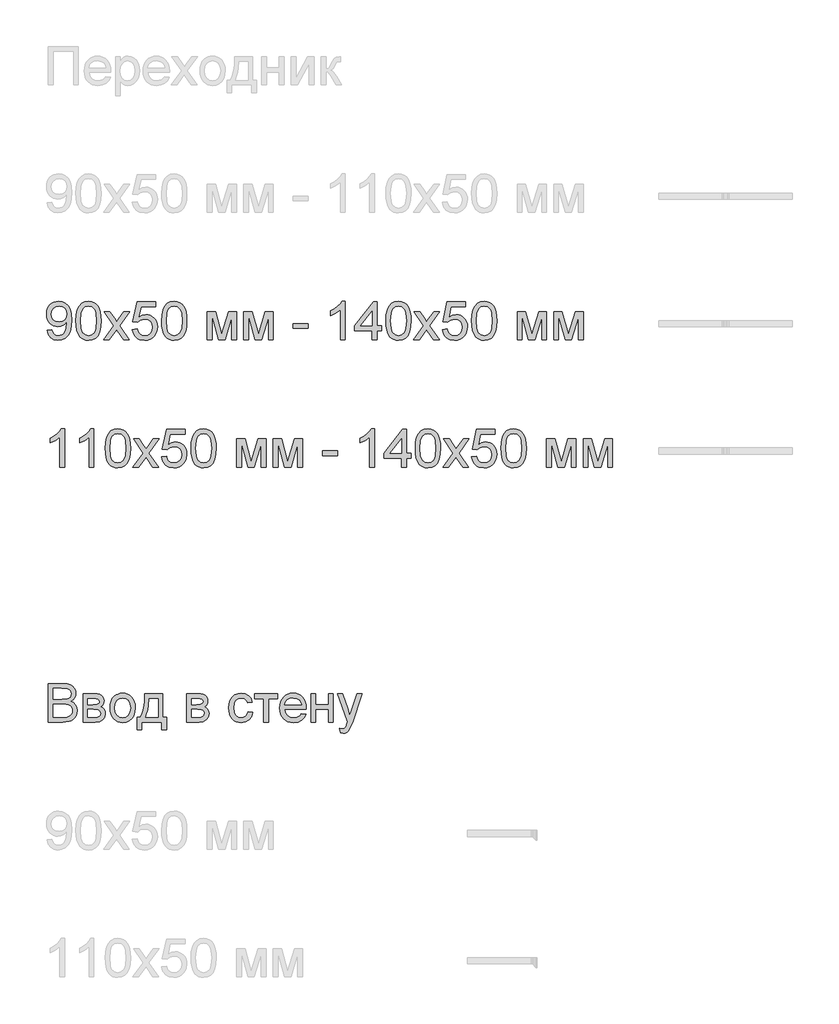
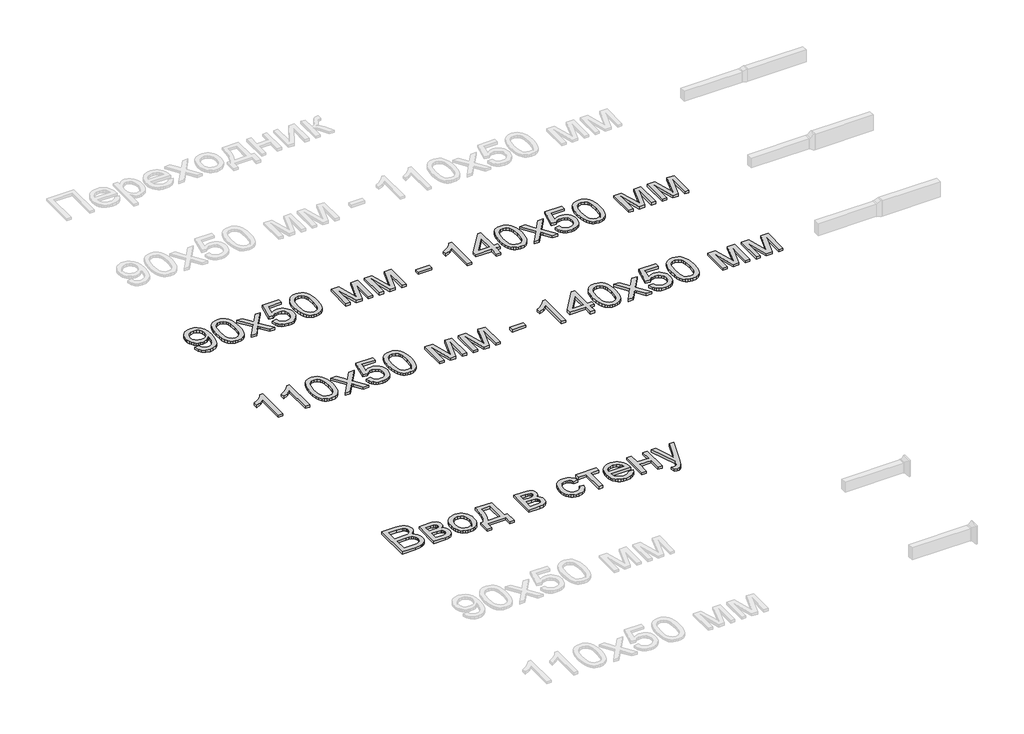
# One storey, part 93 of 168: 3 proxies.
"""IFC4 building model written with IfcOpenShell, lengths in millimetres."""

import ifcopenshell
import ifcopenshell.guid

model = None  # the IFC model being written
_history = None  # IfcOwnerHistory: only IFC2X3 demands one
_inside = {}  # id of a spatial element -> (the spatial element, [elements in it])
_under = {}  # id of a project, library or spatial element -> (it, [spatial elements below it])
_declared = {}  # id of a project -> (the project, [libraries it declares])
_typed = {}  # id of a type object -> (the type object, [elements of that type])
_made_of = {}  # id of a material, layer set ... -> (it, [elements and type objects made of it])


def new_model(schema):
    """Start an empty IFC model of exactly this schema.

    Asked for "IFC4X3", IfcOpenShell would pick the latest addendum, in which some entities
    have other attributes; the version numbers below select the first issue.
    IFC2X3 requires an IfcOwnerHistory on every rooted entity: one is made here for all.
    """
    global model, _history
    if schema == "IFC4X3":
        model = ifcopenshell.file(schema_version=(4, 3, 0, 0))
    else:
        model = ifcopenshell.file(schema=schema)
    _inside.clear()
    _under.clear()
    _declared.clear()
    _typed.clear()
    _made_of.clear()
    _history = None
    if model.schema == "IFC2X3":
        org = make("IfcOrganization", Name="unknown")
        user = make(
            "IfcPersonAndOrganization",
            ThePerson=make("IfcPerson", FamilyName="unknown"),
            TheOrganization=org,
        )
        app = make(
            "IfcApplication",
            ApplicationDeveloper=org,
            Version="unknown",
            ApplicationFullName="unknown",
            ApplicationIdentifier="unknown",
        )
        _history = make(
            "IfcOwnerHistory",
            OwningUser=user,
            OwningApplication=app,
            ChangeAction="ADDED",
            CreationDate=0,
        )
    return model


def make(cls, **values):
    """One entity of the class cls with the attributes given. An attribute that is None is left unset."""
    return model.create_entity(
        cls, **{name: value for name, value in values.items() if value is not None}
    )


def rooted(cls, **values):
    """An entity with a GlobalId (a new one), such as an element, a storey or a relation."""
    return make(cls, GlobalId=ifcopenshell.guid.new(), OwnerHistory=_history, **values)


def si_unit(unit_type, name, prefix=None):
    """IfcSIUnit, for example si_unit("LENGTHUNIT", "METRE", prefix="MILLI")."""
    return make("IfcSIUnit", UnitType=unit_type, Prefix=prefix, Name=name)


def assignment(units):
    """IfcUnitAssignment: the units of a project."""
    return None if units is None else make("IfcUnitAssignment", Units=units)


def point(xyz):
    """IfcCartesianPoint."""
    return None if xyz is None else make("IfcCartesianPoint", Coordinates=xyz)


def direction(xyz):
    """IfcDirection."""
    return None if xyz is None else make("IfcDirection", DirectionRatios=xyz)


def frame(location, z_axis=None, x_axis=None):
    """IfcAxis2Placement3D, a coordinate frame: its origin and axes. An axis left out is left unset."""
    return make(
        "IfcAxis2Placement3D",
        Location=point(location),
        Axis=direction(z_axis),
        RefDirection=direction(x_axis),
    )


def origin():
    """The frame at (0, 0, 0) with its axes left unset."""
    return frame((0.0, 0.0, 0.0))


def origin_with_axes():
    """The frame at (0, 0, 0) with the z axis (0, 0, 1) and the x axis (1, 0, 0) written out."""
    return frame((0.0, 0.0, 0.0), z_axis=(0.0, 0.0, 1.0), x_axis=(1.0, 0.0, 0.0))


def place(relative_to, where):
    """IfcLocalPlacement: puts the frame where relative to a parent placement (None: the world)."""
    return make(
        "IfcLocalPlacement", PlacementRelTo=relative_to, RelativePlacement=where
    )


def context(
    kind, dimensions, precision=None, world=None, true_north=None, identifier=None
):
    """IfcGeometricRepresentationContext, for example the 3D "Model" context."""
    return make(
        "IfcGeometricRepresentationContext",
        ContextIdentifier=identifier,
        ContextType=kind,
        CoordinateSpaceDimension=dimensions,
        Precision=precision,
        WorldCoordinateSystem=world,
        TrueNorth=true_north,
    )


def project(units=None, contexts=None):
    """IfcProject with its units and contexts."""
    return rooted(
        "IfcProject",
        Name="project",
        RepresentationContexts=contexts,
        UnitsInContext=assignment(units),
    )


def spatial(cls, under=None, at=None, **own):
    """A site, building, storey or space (cls), placed at a placement, below another one or the project."""
    s = rooted(cls, ObjectPlacement=at, **own)
    if under is not None:
        _under.setdefault(under.id(), (under, []))[1].append(s)
    return s


def polyline(points):
    """IfcPolyline through the points."""
    return make("IfcPolyline", Points=[point(p) for p in points])


def outline(outer, holes=None, kind="AREA"):
    """IfcArbitraryClosedProfileDef: a profile drawn as a closed curve; with holes, ...WithVoids."""
    if holes is None:
        return make("IfcArbitraryClosedProfileDef", ProfileType=kind, OuterCurve=outer)
    return make(
        "IfcArbitraryProfileDefWithVoids",
        ProfileType=kind,
        OuterCurve=outer,
        InnerCurves=holes,
    )


def extrude(swept, where, along, depth):
    """IfcExtrudedAreaSolid: the profile swept, set in the frame where, extruded along a direction by depth."""
    return make(
        "IfcExtrudedAreaSolid",
        SweptArea=swept,
        Position=where,
        ExtrudedDirection=direction(along),
        Depth=depth,
    )


def shape(context_of_items, identifier, shape_type, items):
    """IfcShapeRepresentation: the items that make up one representation, for example the "Body"."""
    return make(
        "IfcShapeRepresentation",
        ContextOfItems=context_of_items,
        RepresentationIdentifier=identifier,
        RepresentationType=shape_type,
        Items=items,
    )


def made_of(thing, what):
    """Note that an element or type object is made of a material, layer set ...; save() writes the relation."""
    if what is not None:
        _made_of.setdefault(what.id(), (what, []))[1].append(thing)
    return thing


def element(
    cls,
    number,
    at=None,
    inside=None,
    cuts=None,
    type_object=None,
    material=None,
    context=None,
    identifier="Body",
    shape_type=None,
    held_by="IfcProductDefinitionShape",
    body=None,
    shapes=None,
    **own,
):
    """One element of the class cls, such as IfcWall. Its Tag is "e" and its number.

    at: its placement. inside: the storey or other place that contains it. cuts: it is an
    opening in that element (IfcRelVoidsElement). A single representation is given by context,
    identifier, shape_type and body (its items); several are given by shapes. held_by: the class
    of the entity that holds the representations. save() writes the other relations.
    """
    e = rooted(cls, Tag="e%d" % number, ObjectPlacement=at, **own)
    if body is not None:
        shapes = [shape(context, identifier, shape_type, body)]
    if shapes is not None:
        e.Representation = make(held_by, Representations=shapes)
    if inside is not None:
        _inside.setdefault(inside.id(), (inside, []))[1].append(e)
    if cuts is not None:
        rooted(
            "IfcRelVoidsElement", RelatingBuildingElement=cuts, RelatedOpeningElement=e
        )
    if type_object is not None:
        _typed.setdefault(type_object.id(), (type_object, []))[1].append(e)
    return made_of(e, material)


def aggregate(whole, parts):
    """IfcRelAggregates: a whole, such as a stair, and the parts it consists of."""
    return rooted("IfcRelAggregates", RelatingObject=whole, RelatedObjects=parts)


def save(model, path):
    """Write the relations noted so far, then the file.

    IfcRelAggregates (storeys below a building ...), IfcRelContainedInSpatialStructure (elements
    in a storey), IfcRelDefinesByType, IfcRelAssociatesMaterial and IfcRelDeclares: one each for
    every whole, place, type object, material and project.
    """
    for whole, parts in _under.values():
        aggregate(whole, parts)
    for where, things in _inside.values():
        rooted(
            "IfcRelContainedInSpatialStructure",
            RelatedElements=things,
            RelatingStructure=where,
        )
    for kind, things in _typed.values():
        rooted("IfcRelDefinesByType", RelatedObjects=things, RelatingType=kind)
    for what, things in _made_of.values():
        rooted("IfcRelAssociatesMaterial", RelatedObjects=things, RelatingMaterial=what)
    for by, libraries in _declared.values():
        rooted("IfcRelDeclares", RelatingContext=by, RelatedDefinitions=libraries)
    model.write(path)


model = new_model("IFC4")

# Units and contexts
model_context = context("Model", 3, world=origin())
ifc_project = project(units=[si_unit("LENGTHUNIT", "METRE", prefix="MILLI")], contexts=[model_context])

# Site, building, storey
site = spatial("IfcSite", under=ifc_project)
building = spatial("IfcBuilding", under=site)
storey = spatial("IfcBuildingStorey", under=building, Name="Этаж 01", Elevation=0.0)

# Proxies
placement = place(None, origin())
element("IfcBuildingElementProxy", 1, Name="300 мм Arial 2", ObjectType="300 мм Arial 2", at=placement, inside=storey, context=model_context, shape_type="SweptSolid", body=[
    extrude(outline(polyline([(18069.3999525, -9073.063449), (18107.0710688, -9068.3545594), (18113.5090037, -9089.7377004), (18123.9936406, -9104.2966303), (18138.267462, -9112.6567487), (18156.0729505, -9115.4434548), (18172.0482262, -9113.6500301), (18186.5703679, -9108.2697559), (18198.6368974, -9099.8912435), (18207.2453361, -9089.1031039), (18219.5693829, -9056.3616064), (18225.0140364, -9012.6572253), (18224.7933072, -9005.2995854), (18211.7426935, -9021.2288758), (18194.6637718, -9033.8472283), (18174.7889471, -9042.0693909), (18153.3506238, -9044.8101117), (18135.455464, -9043.1362486), (18118.9996425, -9038.1146594), (18103.9831593, -9029.745344), (18090.4060144, -9018.0283025), (18079.1557231, -9003.5751386), (18071.1198008, -8986.9974562), (18066.2982474, -8968.2952553), (18064.6910629, -8947.4685358), (18066.3764223, -8925.9474391), (18071.4325005, -8906.6336343), (18079.8592975, -8889.5271216), (18091.6568132, -8874.6279008), (18105.9927147, -8862.5567728), (18122.0346689, -8853.9345385), (18139.782676, -8848.761198), (18159.2367357, -8847.0367511), (18187.3337231, -8850.9730885), (18212.9107188, -8862.7821005), (18234.3030568, -8881.8751761), (18249.8460711, -8907.6637039), (18259.3098354, -8943.3114693), (18262.4644236, -8991.9822572), (18259.3190325, -9043.5869041), (18249.8828593, -9083.4745094), (18234.2386775, -9113.447695), (18212.4692604, -9135.3090825), (18185.5127072, -9148.663199), (18154.307117, -9153.1145711), (18122.0990483, -9147.8630556), (18096.4024909, -9132.1085092), (18078.4314555, -9106.8442132), (18069.3999525, -9073.063449)]), holes=[polyline([(18224.7933072, -8946.585619), (18220.7282112, -8921.0546085), (18208.5329231, -8901.40971), (18189.6053944, -8888.8833281), (18165.3435768, -8884.7078674), (18140.1804484, -8889.2052248), (18120.020515, -8902.697297), (18106.7767632, -8923.344674), (18102.3621793, -8949.3079458), (18106.5376399, -8972.585679), (18119.0640218, -8991.0625522), (18138.7273145, -9003.1198846), (18164.3135072, -9007.1389954), (18188.3821868, -9003.1198846), (18207.7603709, -8991.0625522), (18220.5350732, -8971.9050973), (18224.7933072, -8946.585619)])]), origin_with_axes(), (0.0, 0.0, 1.0), 20.0),
    extrude(outline(polyline([(18295.4266503, -9000.1492375), (18298.1949623, -8951.9107109), (18306.4998984, -8913.4394512), (18320.258685, -8884.1468474), (18339.3885487, -8863.4442881), (18364.0274454, -8851.1386354), (18394.3133306, -8847.0367511), (18417.5266845, -8849.4647723), (18438.3120172, -8856.7488358), (18455.6944415, -8868.6038331), (18468.6990701, -8884.7446556), (18478.5215193, -8905.0333477), (18486.3574058, -8929.3319534), (18491.4893597, -8960.1880558), (18493.2000109, -9000.1492375), (18490.4592901, -9048.1118526), (18482.2371275, -9086.4911418), (18468.5611143, -9115.8113368), (18449.4588417, -9136.5966695), (18424.7647628, -9148.9850957), (18394.3133306, -9153.1145711), (18373.5647861, -9151.3211464), (18355.1706863, -9145.9408722), (18339.1310313, -9136.9737486), (18325.4458211, -9124.4197755), (18312.3124339, -9101.7260549), (18302.931443, -9073.4497251), (18297.3028485, -9039.5907859), (18295.4266503, -9000.1492375)]), holes=[polyline([(18333.0977666, -9000.0756611), (18337.5123506, -9059.3322535), (18343.0305805, -9079.6002522), (18350.7561024, -9093.6280525), (18370.4745773, -9109.9896042), (18394.3133306, -9115.4434548), (18418.1520839, -9109.9712101), (18437.8705589, -9093.5544761), (18445.5960808, -9079.5036831), (18451.1143107, -9059.240283), (18455.5288946, -9000.0756611), (18451.2614635, -8942.152641), (18445.9271745, -8921.9513209), (18438.45917, -8907.5901275), (18418.7774833, -8890.4284325), (18393.8718722, -8884.7078674), (18370.2906363, -8889.7478508), (18351.3447136, -8904.8678008), (18343.3616743, -8920.5027856), (18337.6595034, -8941.5824239), (18333.0977666, -9000.0756611)])]), origin_with_axes(), (0.0, 0.0, 1.0), 20.0),
    extrude(outline(polyline([(18512.0355691, -9148.4056816), (18592.5281496, -9037.1581662), (18516.7444586, -8927.0878733), (18562.0675204, -8927.0878733), (18598.6349907, -8980.0628806), (18615.7047153, -9005.0788562), (18630.4935715, -8984.6246173), (18672.1378134, -8927.0878733), (18717.4608752, -8927.0878733), (18637.8512114, -9037.1581662), (18714.5178192, -9148.4056816), (18669.1947574, -9148.4056816), (18623.0623552, -9081.5247348), (18614.6010693, -9069.3110526), (18557.3586309, -9148.4056816), (18512.0355691, -9148.4056816)])), origin_with_axes(), (0.0, 0.0, 1.0), 20.0),
    extrude(outline(polyline([(18738.0622669, -9068.3545594), (18775.7333832, -9063.6456699), (18782.6495647, -9086.2612155), (18794.7160942, -9102.4572204), (18811.8777893, -9112.1968962), (18834.0794677, -9115.4434548), (18861.0820061, -9110.9277033), (18881.3155158, -9097.3804488), (18893.9522624, -9076.3651899), (18898.1645112, -9049.4454249), (18894.2189768, -9024.0983554), (18882.3823736, -9004.7109743), (18862.5627311, -8992.4053215), (18834.6680789, -8988.3034373), (18816.3935407, -8989.9405121), (18801.5954875, -8994.8517368), (18780.4422728, -9011.847885), (18742.7711565, -9007.1389954), (18775.7333832, -8851.7456407), (18921.7089589, -8851.7456407), (18921.7089589, -8889.416757), (18806.1940124, -8889.416757), (18790.080781, -8972.4109351), (18816.991349, -8956.0769745), (18845.1895039, -8950.632321), (18863.5353192, -8952.3199796), (18880.3866138, -8957.3829556), (18895.7433878, -8965.8212488), (18909.6056413, -8977.6348594), (18921.0812603, -8992.1018189), (18929.278131, -9008.5001588), (18934.1962534, -9026.8298792), (18935.8356275, -9047.0909801), (18929.9311215, -9084.7620964), (18922.550489, -9101.5559095), (18912.2176034, -9116.9885592), (18896.5642245, -9132.7936894), (18878.2988835, -9144.0830681), (18857.4215803, -9150.8566954), (18833.9323149, -9153.1145711), (18796.9325832, -9147.3112326), (18781.2539124, -9140.0570595), (18767.4560383, -9129.9012172), (18755.9758208, -9117.3495434), (18747.2501197, -9102.9078758), (18738.0622669, -9068.3545594)])), origin_with_axes(), (0.0, 0.0, 1.0), 20.0),
    extrude(outline(polyline([(18968.7978543, -9000.1492375), (18971.5661663, -8951.9107109), (18979.8711023, -8913.4394512), (18993.629889, -8884.1468474), (19012.7597527, -8863.4442881), (19037.3986493, -8851.1386354), (19067.6845346, -8847.0367511), (19090.8978885, -8849.4647723), (19111.6832212, -8856.7488358), (19129.0656455, -8868.6038331), (19142.070274, -8884.7446556), (19151.8927233, -8905.0333477), (19159.7286098, -8929.3319534), (19164.8605636, -8960.1880558), (19166.5712149, -9000.1492375), (19163.830494, -9048.1118526), (19155.6083314, -9086.4911418), (19141.9323183, -9115.8113368), (19122.8300457, -9136.5966695), (19098.1359667, -9148.9850957), (19067.6845346, -9153.1145711), (19046.9359901, -9151.3211464), (19028.5418903, -9145.9408722), (19012.5022353, -9136.9737486), (18998.8170251, -9124.4197755), (18985.6836379, -9101.7260549), (18976.302647, -9073.4497251), (18970.6740525, -9039.5907859), (18968.7978543, -9000.1492375)]), holes=[polyline([(19006.4689706, -9000.0756611), (19010.8835545, -9059.3322535), (19016.4017845, -9079.6002522), (19024.1273064, -9093.6280525), (19043.8457813, -9109.9896042), (19067.6845346, -9115.4434548), (19091.5232879, -9109.9712101), (19111.2417628, -9093.5544761), (19118.9672847, -9079.5036831), (19124.4855147, -9059.240283), (19128.9000986, -9000.0756611), (19124.6326675, -8942.152641), (19119.2983785, -8921.9513209), (19111.830374, -8907.5901275), (19092.1486873, -8890.4284325), (19067.2430762, -8884.7078674), (19043.6618403, -8889.7478508), (19024.7159176, -8904.8678008), (19016.7328783, -8920.5027856), (19011.0307073, -8941.5824239), (19006.4689706, -9000.0756611)])]), origin_with_axes(), (0.0, 0.0, 1.0), 20.0),
    extrude(outline(polyline([(19326.6734592, -8927.0878733), (19391.4942668, -8927.0878733), (19441.4526417, -9104.2598421), (19495.3105658, -8927.0878733), (19557.4090466, -8927.0878733), (19557.4090466, -9148.4056816), (19519.7379303, -9148.4056816), (19519.7379303, -8970.2036431), (19465.5857006, -9148.4056816), (19416.1423604, -9148.4056816), (19364.3445755, -8961.6687808), (19364.3445755, -9148.4056816), (19326.6734592, -9148.4056816), (19326.6734592, -8927.0878733)])), origin_with_axes(), (0.0, 0.0, 1.0), 20.0),
    extrude(outline(polyline([(19613.915721, -8927.0878733), (19678.7365286, -8927.0878733), (19728.6949035, -9104.2598421), (19782.5528276, -8927.0878733), (19844.6513084, -8927.0878733), (19844.6513084, -9148.4056816), (19806.9801921, -9148.4056816), (19806.9801921, -8970.2036431), (19752.8279624, -9148.4056816), (19703.3846223, -9148.4056816), (19651.5868373, -8961.6687808), (19651.5868373, -9148.4056816), (19613.915721, -9148.4056816), (19613.915721, -8927.0878733)])), origin_with_axes(), (0.0, 0.0, 1.0), 20.0),
    extrude(outline(polyline([(20000.0446632, -9058.9367803), (20000.0446632, -9021.265664), (20117.7669016, -9021.265664), (20117.7669016, -9058.9367803), (20000.0446632, -9058.9367803)])), origin_with_axes(), (0.0, 0.0, 1.0), 20.0),
    extrude(outline(polyline([(20409.718053, -9148.4056816), (20372.0469367, -9148.4056816), (20372.0469367, -8913.5498158), (20336.3623832, -8938.9704617), (20296.7047041, -8957.9899609), (20296.7047041, -8922.3789837), (20326.2916135, -8906.2841464), (20351.9237916, -8887.1358886), (20372.1297101, -8866.7736202), (20385.4378413, -8847.0367511), (20409.718053, -8847.0367511), (20409.718053, -9148.4056816)])), origin_with_axes(), (0.0, 0.0, 1.0), 20.0),
    extrude(outline(polyline([(20621.6180822, -9148.4056816), (20621.6180822, -9077.7723385), (20485.0602856, -9077.7723385), (20485.0602856, -9040.1012222), (20631.0358613, -8851.7456407), (20659.2891985, -8851.7456407), (20659.2891985, -9040.1012222), (20696.9603148, -9040.1012222), (20696.9603148, -9077.7723385), (20659.2891985, -9077.7723385), (20659.2891985, -9148.4056816), (20621.6180822, -9148.4056816)]), holes=[polyline([(20621.6180822, -9040.1012222), (20621.6180822, -8923.7033589), (20531.413417, -9040.1012222), (20621.6180822, -9040.1012222)])]), origin_with_axes(), (0.0, 0.0, 1.0), 20.0),
    extrude(outline(polyline([(20729.9225416, -9000.1492375), (20732.6908536, -8951.9107109), (20740.9957897, -8913.4394512), (20754.7545763, -8884.1468474), (20773.88444, -8863.4442881), (20798.5233367, -8851.1386354), (20828.8092219, -8847.0367511), (20852.0225758, -8849.4647723), (20872.8079085, -8856.7488358), (20890.1903328, -8868.6038331), (20903.1949613, -8884.7446556), (20913.0174106, -8905.0333477), (20920.8532971, -8929.3319534), (20925.9852509, -8960.1880558), (20927.6959022, -9000.1492375), (20924.9551813, -9048.1118526), (20916.7330188, -9086.4911418), (20903.0570056, -9115.8113368), (20883.954733, -9136.5966695), (20859.2606541, -9148.9850957), (20828.8092219, -9153.1145711), (20808.0606774, -9151.3211464), (20789.6665776, -9145.9408722), (20773.6269226, -9136.9737486), (20759.9417124, -9124.4197755), (20746.8083252, -9101.7260549), (20737.4273343, -9073.4497251), (20731.7987398, -9039.5907859), (20729.9225416, -9000.1492375)]), holes=[polyline([(20767.5936579, -9000.0756611), (20772.0082419, -9059.3322535), (20777.5264718, -9079.6002522), (20785.2519937, -9093.6280525), (20804.9704686, -9109.9896042), (20828.8092219, -9115.4434548), (20852.6479752, -9109.9712101), (20872.3664501, -9093.5544761), (20880.091972, -9079.5036831), (20885.610202, -9059.240283), (20890.0247859, -9000.0756611), (20885.7573548, -8942.152641), (20880.4230658, -8921.9513209), (20872.9550613, -8907.5901275), (20853.2733746, -8890.4284325), (20828.3677635, -8884.7078674), (20804.7865276, -8889.7478508), (20785.8406049, -8904.8678008), (20777.8575656, -8920.5027856), (20772.1553947, -8941.5824239), (20767.5936579, -9000.0756611)])]), origin_with_axes(), (0.0, 0.0, 1.0), 20.0),
    extrude(outline(polyline([(20946.5314604, -9148.4056816), (21027.0240409, -9037.1581662), (20951.2403499, -8927.0878733), (20996.5634117, -8927.0878733), (21033.130882, -8980.0628806), (21050.2006066, -9005.0788562), (21064.9894628, -8984.6246173), (21106.6337047, -8927.0878733), (21151.9567665, -8927.0878733), (21072.3471027, -9037.1581662), (21149.0137105, -9148.4056816), (21103.6906487, -9148.4056816), (21057.5582465, -9081.5247348), (21049.0969606, -9069.3110526), (20991.8545222, -9148.4056816), (20946.5314604, -9148.4056816)])), origin_with_axes(), (0.0, 0.0, 1.0), 20.0),
    extrude(outline(polyline([(21172.5581582, -9068.3545594), (21210.2292745, -9063.6456699), (21217.145456, -9086.2612155), (21229.2119855, -9102.4572204), (21246.3736805, -9112.1968962), (21268.5753589, -9115.4434548), (21295.5778974, -9110.9277033), (21315.8114071, -9097.3804488), (21328.4481537, -9076.3651899), (21332.6604025, -9049.4454249), (21328.7148681, -9024.0983554), (21316.8782649, -9004.7109743), (21297.0586224, -8992.4053215), (21269.1639701, -8988.3034373), (21250.889432, -8989.9405121), (21236.0913788, -8994.8517368), (21214.938164, -9011.847885), (21177.2670477, -9007.1389954), (21210.2292745, -8851.7456407), (21356.2048502, -8851.7456407), (21356.2048502, -8889.416757), (21240.6899037, -8889.416757), (21224.5766723, -8972.4109351), (21251.4872403, -8956.0769745), (21279.6853952, -8950.632321), (21298.0312104, -8952.3199796), (21314.8825051, -8957.3829556), (21330.2392791, -8965.8212488), (21344.1015326, -8977.6348594), (21355.5771515, -8992.1018189), (21363.7740222, -9008.5001588), (21368.6921447, -9026.8298792), (21370.3315188, -9047.0909801), (21364.4270128, -9084.7620964), (21357.0463803, -9101.5559095), (21346.7134947, -9116.9885592), (21331.0601158, -9132.7936894), (21312.7947748, -9144.0830681), (21291.9174715, -9150.8566954), (21268.4282061, -9153.1145711), (21231.4284745, -9147.3112326), (21215.7498037, -9140.0570595), (21201.9519296, -9129.9012172), (21190.4717121, -9117.3495434), (21181.746011, -9102.9078758), (21172.5581582, -9068.3545594)])), origin_with_axes(), (0.0, 0.0, 1.0), 20.0),
    extrude(outline(polyline([(21403.2937456, -9000.1492375), (21406.0620576, -8951.9107109), (21414.3669936, -8913.4394512), (21428.1257803, -8884.1468474), (21447.255644, -8863.4442881), (21471.8945406, -8851.1386354), (21502.1804259, -8847.0367511), (21525.3937798, -8849.4647723), (21546.1791125, -8856.7488358), (21563.5615368, -8868.6038331), (21576.5661653, -8884.7446556), (21586.3886146, -8905.0333477), (21594.2245011, -8929.3319534), (21599.3564549, -8960.1880558), (21601.0671062, -9000.1492375), (21598.3263853, -9048.1118526), (21590.1042227, -9086.4911418), (21576.4282096, -9115.8113368), (21557.325937, -9136.5966695), (21532.631858, -9148.9850957), (21502.1804259, -9153.1145711), (21481.4318814, -9151.3211464), (21463.0377816, -9145.9408722), (21446.9981266, -9136.9737486), (21433.3129164, -9124.4197755), (21420.1795292, -9101.7260549), (21410.7985383, -9073.4497251), (21405.1699438, -9039.5907859), (21403.2937456, -9000.1492375)]), holes=[polyline([(21440.9648619, -9000.0756611), (21445.3794458, -9059.3322535), (21450.8976758, -9079.6002522), (21458.6231977, -9093.6280525), (21478.3416726, -9109.9896042), (21502.1804259, -9115.4434548), (21526.0191792, -9109.9712101), (21545.7376541, -9093.5544761), (21553.463176, -9079.5036831), (21558.9814059, -9059.240283), (21563.3959899, -9000.0756611), (21559.1285587, -8942.152641), (21553.7942698, -8921.9513209), (21546.3262653, -8907.5901275), (21526.6445786, -8890.4284325), (21501.7389675, -8884.7078674), (21478.1577316, -8889.7478508), (21459.2118088, -8904.8678008), (21451.2287695, -8920.5027856), (21445.5265986, -8941.5824239), (21440.9648619, -9000.0756611)])]), origin_with_axes(), (0.0, 0.0, 1.0), 20.0),
    extrude(outline(polyline([(21761.1693505, -8927.0878733), (21825.990158, -8927.0878733), (21875.948533, -9104.2598421), (21929.8064571, -8927.0878733), (21991.9049379, -8927.0878733), (21991.9049379, -9148.4056816), (21954.2338216, -9148.4056816), (21954.2338216, -8970.2036431), (21900.0815919, -9148.4056816), (21850.6382517, -9148.4056816), (21798.8404668, -8961.6687808), (21798.8404668, -9148.4056816), (21761.1693505, -9148.4056816), (21761.1693505, -8927.0878733)])), origin_with_axes(), (0.0, 0.0, 1.0), 20.0),
    extrude(outline(polyline([(22048.4116123, -8927.0878733), (22113.2324199, -8927.0878733), (22163.1907948, -9104.2598421), (22217.0487189, -8927.0878733), (22279.1471997, -8927.0878733), (22279.1471997, -9148.4056816), (22241.4760834, -9148.4056816), (22241.4760834, -8970.2036431), (22187.3238537, -9148.4056816), (22137.8805135, -9148.4056816), (22086.0827286, -8961.6687808), (22086.0827286, -9148.4056816), (22048.4116123, -9148.4056816), (22048.4116123, -8927.0878733)])), origin_with_axes(), (0.0, 0.0, 1.0), 20.0),
])
element("IfcBuildingElementProxy", 2, Name="300 мм Arial 2", ObjectType="300 мм Arial 2", at=placement, inside=storey, context=model_context, shape_type="SweptSolid", body=[
    extrude(outline(polyline([(18205.9577491, -10148.4056816), (18168.2866328, -10148.4056816), (18168.2866328, -9913.5498158), (18132.6020793, -9938.9704617), (18092.9444002, -9957.9899609), (18092.9444002, -9922.3789837), (18122.5313096, -9906.2841464), (18148.1634877, -9887.1358886), (18168.3694062, -9866.7736202), (18181.6775374, -9847.0367511), (18205.9577491, -9847.0367511), (18205.9577491, -10148.4056816)])), origin_with_axes(), (0.0, 0.0, 1.0), 20.0),
    extrude(outline(polyline([(18436.6933365, -10148.4056816), (18399.0222202, -10148.4056816), (18399.0222202, -9913.5498158), (18363.3376666, -9938.9704617), (18323.6799876, -9957.9899609), (18323.6799876, -9922.3789837), (18353.266897, -9906.2841464), (18378.899075, -9887.1358886), (18399.1049936, -9866.7736202), (18412.4131248, -9847.0367511), (18436.6933365, -9847.0367511), (18436.6933365, -10148.4056816)])), origin_with_axes(), (0.0, 0.0, 1.0), 20.0),
    extrude(outline(polyline([(18526.1622377, -10000.1492375), (18528.9305497, -9951.9107109), (18537.2354858, -9913.4394512), (18550.9942724, -9884.1468474), (18570.1241361, -9863.4442881), (18594.7630327, -9851.1386354), (18625.048918, -9847.0367511), (18648.2622719, -9849.4647723), (18669.0476046, -9856.7488358), (18686.4300289, -9868.6038331), (18699.4346574, -9884.7446556), (18709.2571067, -9905.0333477), (18717.0929932, -9929.3319534), (18722.224947, -9960.1880558), (18723.9355983, -10000.1492375), (18721.1948774, -10048.1118526), (18712.9727148, -10086.4911418), (18699.2967017, -10115.8113368), (18680.1944291, -10136.5966695), (18655.5003502, -10148.9850957), (18625.048918, -10153.1145711), (18604.3003735, -10151.3211464), (18585.9062737, -10145.9408722), (18569.8666187, -10136.9737486), (18556.1814085, -10124.4197755), (18543.0480213, -10101.7260549), (18533.6670304, -10073.4497251), (18528.0384359, -10039.5907859), (18526.1622377, -10000.1492375)]), holes=[polyline([(18563.833354, -10000.0756611), (18568.2479379, -10059.3322535), (18573.7661679, -10079.6002522), (18581.4916898, -10093.6280525), (18601.2101647, -10109.9896042), (18625.048918, -10115.4434548), (18648.8876713, -10109.9712101), (18668.6061462, -10093.5544761), (18676.3316681, -10079.5036831), (18681.8498981, -10059.240283), (18686.264482, -10000.0756611), (18681.9970509, -9942.152641), (18676.6627619, -9921.9513209), (18669.1947574, -9907.5901275), (18649.5130707, -9890.4284325), (18624.6074596, -9884.7078674), (18601.0262237, -9889.7478508), (18582.080301, -9904.8678008), (18574.0972617, -9920.5027856), (18568.3950907, -9941.5824239), (18563.833354, -10000.0756611)])]), origin_with_axes(), (0.0, 0.0, 1.0), 20.0),
    extrude(outline(polyline([(18742.7711565, -10148.4056816), (18823.263737, -10037.1581662), (18747.480046, -9927.0878733), (18792.8031078, -9927.0878733), (18829.3705781, -9980.0628806), (18846.4403027, -10005.0788562), (18861.2291589, -9984.6246173), (18902.8734008, -9927.0878733), (18948.1964626, -9927.0878733), (18868.5867988, -10037.1581662), (18945.2534066, -10148.4056816), (18899.9303448, -10148.4056816), (18853.7979426, -10081.5247348), (18845.3366567, -10069.3110526), (18788.0942183, -10148.4056816), (18742.7711565, -10148.4056816)])), origin_with_axes(), (0.0, 0.0, 1.0), 20.0),
    extrude(outline(polyline([(18968.7978543, -10068.3545594), (19006.4689706, -10063.6456699), (19013.3851521, -10086.2612155), (19025.4516816, -10102.4572204), (19042.6133766, -10112.1968962), (19064.815055, -10115.4434548), (19091.8175935, -10110.9277033), (19112.0511032, -10097.3804488), (19124.6878498, -10076.3651899), (19128.9000986, -10049.4454249), (19124.9545642, -10024.0983554), (19113.117961, -10004.7109743), (19093.2983185, -9992.4053215), (19065.4036662, -9988.3034373), (19047.1291281, -9989.9405121), (19032.3310749, -9994.8517368), (19011.1778601, -10011.847885), (18973.5067438, -10007.1389954), (19006.4689706, -9851.7456407), (19152.4445463, -9851.7456407), (19152.4445463, -9889.416757), (19036.9295998, -9889.416757), (19020.8163684, -9972.4109351), (19047.7269364, -9956.0769745), (19075.9250913, -9950.632321), (19094.2709065, -9952.3199796), (19111.1222012, -9957.3829556), (19126.4789752, -9965.8212488), (19140.3412286, -9977.6348594), (19151.8168476, -9992.1018189), (19160.0137183, -10008.5001588), (19164.9318408, -10026.8298792), (19166.5712149, -10047.0909801), (19160.6667089, -10084.7620964), (19153.2860764, -10101.5559095), (19142.9531908, -10116.9885592), (19127.2998119, -10132.7936894), (19109.0344709, -10144.0830681), (19088.1571676, -10150.8566954), (19064.6679022, -10153.1145711), (19027.6681706, -10147.3112326), (19011.9894998, -10140.0570595), (18998.1916257, -10129.9012172), (18986.7114082, -10117.3495434), (18977.9857071, -10102.9078758), (18968.7978543, -10068.3545594)])), origin_with_axes(), (0.0, 0.0, 1.0), 20.0),
    extrude(outline(polyline([(19199.5334417, -10000.1492375), (19202.3017537, -9951.9107109), (19210.6066897, -9913.4394512), (19224.3654763, -9884.1468474), (19243.4953401, -9863.4442881), (19268.1342367, -9851.1386354), (19298.420122, -9847.0367511), (19321.6334759, -9849.4647723), (19342.4188086, -9856.7488358), (19359.8012329, -9868.6038331), (19372.8058614, -9884.7446556), (19382.6283107, -9905.0333477), (19390.4641972, -9929.3319534), (19395.596151, -9960.1880558), (19397.3068023, -10000.1492375), (19394.5660814, -10048.1118526), (19386.3439188, -10086.4911418), (19372.6679056, -10115.8113368), (19353.565633, -10136.5966695), (19328.8715541, -10148.9850957), (19298.420122, -10153.1145711), (19277.6715774, -10151.3211464), (19259.2774777, -10145.9408722), (19243.2378227, -10136.9737486), (19229.5526125, -10124.4197755), (19216.4192252, -10101.7260549), (19207.0382344, -10073.4497251), (19201.4096398, -10039.5907859), (19199.5334417, -10000.1492375)]), holes=[polyline([(19237.204558, -10000.0756611), (19241.6191419, -10059.3322535), (19247.1373718, -10079.6002522), (19254.8628937, -10093.6280525), (19274.5813687, -10109.9896042), (19298.420122, -10115.4434548), (19322.2588753, -10109.9712101), (19341.9773502, -10093.5544761), (19349.7028721, -10079.5036831), (19355.221102, -10059.240283), (19359.635686, -10000.0756611), (19355.3682548, -9942.152641), (19350.0339659, -9921.9513209), (19342.5659614, -9907.5901275), (19322.8842747, -9890.4284325), (19297.9786636, -9884.7078674), (19274.3974277, -9889.7478508), (19255.4515049, -9904.8678008), (19247.4684656, -9920.5027856), (19241.7662947, -9941.5824239), (19237.204558, -10000.0756611)])]), origin_with_axes(), (0.0, 0.0, 1.0), 20.0),
    extrude(outline(polyline([(19557.4090466, -9927.0878733), (19622.2298541, -9927.0878733), (19672.1882291, -10104.2598421), (19726.0461532, -9927.0878733), (19788.144634, -9927.0878733), (19788.144634, -10148.4056816), (19750.4735176, -10148.4056816), (19750.4735176, -9970.2036431), (19696.321288, -10148.4056816), (19646.8779478, -10148.4056816), (19595.0801629, -9961.6687808), (19595.0801629, -10148.4056816), (19557.4090466, -10148.4056816), (19557.4090466, -9927.0878733)])), origin_with_axes(), (0.0, 0.0, 1.0), 20.0),
    extrude(outline(polyline([(19844.6513084, -9927.0878733), (19909.472116, -9927.0878733), (19959.4304909, -10104.2598421), (20013.288415, -9927.0878733), (20075.3868958, -9927.0878733), (20075.3868958, -10148.4056816), (20037.7157795, -10148.4056816), (20037.7157795, -9970.2036431), (19983.5635498, -10148.4056816), (19934.1202096, -10148.4056816), (19882.3224247, -9961.6687808), (19882.3224247, -10148.4056816), (19844.6513084, -10148.4056816), (19844.6513084, -9927.0878733)])), origin_with_axes(), (0.0, 0.0, 1.0), 20.0),
    extrude(outline(polyline([(20230.7802505, -10058.9367803), (20230.7802505, -10021.265664), (20348.502489, -10021.265664), (20348.502489, -10058.9367803), (20230.7802505, -10058.9367803)])), origin_with_axes(), (0.0, 0.0, 1.0), 20.0),
    extrude(outline(polyline([(20640.4536404, -10148.4056816), (20602.7825241, -10148.4056816), (20602.7825241, -9913.5498158), (20567.0979705, -9938.9704617), (20527.4402915, -9957.9899609), (20527.4402915, -9922.3789837), (20557.0272009, -9906.2841464), (20582.6593789, -9887.1358886), (20602.8652975, -9866.7736202), (20616.1734287, -9847.0367511), (20640.4536404, -9847.0367511), (20640.4536404, -10148.4056816)])), origin_with_axes(), (0.0, 0.0, 1.0), 20.0),
    extrude(outline(polyline([(20852.3536696, -10148.4056816), (20852.3536696, -10077.7723385), (20715.795873, -10077.7723385), (20715.795873, -10040.1012222), (20861.7714487, -9851.7456407), (20890.0247859, -9851.7456407), (20890.0247859, -10040.1012222), (20927.6959022, -10040.1012222), (20927.6959022, -10077.7723385), (20890.0247859, -10077.7723385), (20890.0247859, -10148.4056816), (20852.3536696, -10148.4056816)]), holes=[polyline([(20852.3536696, -10040.1012222), (20852.3536696, -9923.7033589), (20762.1490044, -10040.1012222), (20852.3536696, -10040.1012222)])]), origin_with_axes(), (0.0, 0.0, 1.0), 20.0),
    extrude(outline(polyline([(20960.658129, -10000.1492375), (20963.426441, -9951.9107109), (20971.731377, -9913.4394512), (20985.4901637, -9884.1468474), (21004.6200274, -9863.4442881), (21029.258924, -9851.1386354), (21059.5448093, -9847.0367511), (21082.7581632, -9849.4647723), (21103.5434959, -9856.7488358), (21120.9259202, -9868.6038331), (21133.9305487, -9884.7446556), (21143.752998, -9905.0333477), (21151.5888845, -9929.3319534), (21156.7208383, -9960.1880558), (21158.4314896, -10000.1492375), (21155.6907687, -10048.1118526), (21147.4686061, -10086.4911418), (21133.792593, -10115.8113368), (21114.6903204, -10136.5966695), (21089.9962414, -10148.9850957), (21059.5448093, -10153.1145711), (21038.7962648, -10151.3211464), (21020.402165, -10145.9408722), (21004.36251, -10136.9737486), (20990.6772998, -10124.4197755), (20977.5439126, -10101.7260549), (20968.1629217, -10073.4497251), (20962.5343272, -10039.5907859), (20960.658129, -10000.1492375)]), holes=[polyline([(20998.3292453, -10000.0756611), (21002.7438292, -10059.3322535), (21008.2620592, -10079.6002522), (21015.9875811, -10093.6280525), (21035.706056, -10109.9896042), (21059.5448093, -10115.4434548), (21083.3835626, -10109.9712101), (21103.1020375, -10093.5544761), (21110.8275594, -10079.5036831), (21116.3457893, -10059.240283), (21120.7603733, -10000.0756611), (21116.4929421, -9942.152641), (21111.1586532, -9921.9513209), (21103.6906487, -9907.5901275), (21084.008962, -9890.4284325), (21059.1033509, -9884.7078674), (21035.522115, -9889.7478508), (21016.5761922, -9904.8678008), (21008.593153, -9920.5027856), (21002.890982, -9941.5824239), (20998.3292453, -10000.0756611)])]), origin_with_axes(), (0.0, 0.0, 1.0), 20.0),
    extrude(outline(polyline([(21177.2670477, -10148.4056816), (21257.7596283, -10037.1581662), (21181.9759373, -9927.0878733), (21227.2989991, -9927.0878733), (21263.8664694, -9980.0628806), (21280.936194, -10005.0788562), (21295.7250502, -9984.6246173), (21337.369292, -9927.0878733), (21382.6923538, -9927.0878733), (21303.0826901, -10037.1581662), (21379.7492979, -10148.4056816), (21334.4262361, -10148.4056816), (21288.2938339, -10081.5247348), (21279.832548, -10069.3110526), (21222.5901095, -10148.4056816), (21177.2670477, -10148.4056816)])), origin_with_axes(), (0.0, 0.0, 1.0), 20.0),
    extrude(outline(polyline([(21403.2937456, -10068.3545594), (21440.9648619, -10063.6456699), (21447.8810434, -10086.2612155), (21459.9475728, -10102.4572204), (21477.1092679, -10112.1968962), (21499.3109463, -10115.4434548), (21526.3134848, -10110.9277033), (21546.5469945, -10097.3804488), (21559.183741, -10076.3651899), (21563.3959899, -10049.4454249), (21559.4504555, -10024.0983554), (21547.6138523, -10004.7109743), (21527.7942098, -9992.4053215), (21499.8995575, -9988.3034373), (21481.6250194, -9989.9405121), (21466.8269661, -9994.8517368), (21445.6737514, -10011.847885), (21408.0026351, -10007.1389954), (21440.9648619, -9851.7456407), (21586.9404376, -9851.7456407), (21586.9404376, -9889.416757), (21471.4254911, -9889.416757), (21455.3122597, -9972.4109351), (21482.2228276, -9956.0769745), (21510.4209826, -9950.632321), (21528.7667978, -9952.3199796), (21545.6180925, -9957.3829556), (21560.9748665, -9965.8212488), (21574.8371199, -9977.6348594), (21586.3127389, -9992.1018189), (21594.5096096, -10008.5001588), (21599.427732, -10026.8298792), (21601.0671062, -10047.0909801), (21595.1626002, -10084.7620964), (21587.7819676, -10101.5559095), (21577.4490821, -10116.9885592), (21561.7957032, -10132.7936894), (21543.5303621, -10144.0830681), (21522.6530589, -10150.8566954), (21499.1637935, -10153.1145711), (21462.1640619, -10147.3112326), (21446.4853911, -10140.0570595), (21432.687517, -10129.9012172), (21421.2072995, -10117.3495434), (21412.4815984, -10102.9078758), (21403.2937456, -10068.3545594)])), origin_with_axes(), (0.0, 0.0, 1.0), 20.0),
    extrude(outline(polyline([(21634.029333, -10000.1492375), (21636.797645, -9951.9107109), (21645.102581, -9913.4394512), (21658.8613676, -9884.1468474), (21677.9912314, -9863.4442881), (21702.630128, -9851.1386354), (21732.9160133, -9847.0367511), (21756.1293672, -9849.4647723), (21776.9146999, -9856.7488358), (21794.2971241, -9868.6038331), (21807.3017527, -9884.7446556), (21817.124202, -9905.0333477), (21824.9600884, -9929.3319534), (21830.0920423, -9960.1880558), (21831.8026936, -10000.1492375), (21829.0619727, -10048.1118526), (21820.8398101, -10086.4911418), (21807.1637969, -10115.8113368), (21788.0615243, -10136.5966695), (21763.3674454, -10148.9850957), (21732.9160133, -10153.1145711), (21712.1674687, -10151.3211464), (21693.773369, -10145.9408722), (21677.733714, -10136.9737486), (21664.0485038, -10124.4197755), (21650.9151165, -10101.7260549), (21641.5341257, -10073.4497251), (21635.9055311, -10039.5907859), (21634.029333, -10000.1492375)]), holes=[polyline([(21671.7004493, -10000.0756611), (21676.1150332, -10059.3322535), (21681.6332631, -10079.6002522), (21689.358785, -10093.6280525), (21709.07726, -10109.9896042), (21732.9160133, -10115.4434548), (21756.7547665, -10109.9712101), (21776.4732415, -10093.5544761), (21784.1987634, -10079.5036831), (21789.7169933, -10059.240283), (21794.1315773, -10000.0756611), (21789.8641461, -9942.152641), (21784.5298572, -9921.9513209), (21777.0618527, -9907.5901275), (21757.3801659, -9890.4284325), (21732.4745549, -9884.7078674), (21708.893319, -9889.7478508), (21689.9473962, -9904.8678008), (21681.9643569, -9920.5027856), (21676.262186, -9941.5824239), (21671.7004493, -10000.0756611)])]), origin_with_axes(), (0.0, 0.0, 1.0), 20.0),
    extrude(outline(polyline([(21991.9049379, -9927.0878733), (22056.7257454, -9927.0878733), (22106.6841204, -10104.2598421), (22160.5420444, -9927.0878733), (22222.6405252, -9927.0878733), (22222.6405252, -10148.4056816), (22184.9694089, -10148.4056816), (22184.9694089, -9970.2036431), (22130.8171792, -10148.4056816), (22081.3738391, -10148.4056816), (22029.5760542, -9961.6687808), (22029.5760542, -10148.4056816), (21991.9049379, -10148.4056816), (21991.9049379, -9927.0878733)])), origin_with_axes(), (0.0, 0.0, 1.0), 20.0),
    extrude(outline(polyline([(22279.1471997, -9927.0878733), (22343.9680072, -9927.0878733), (22393.9263822, -10104.2598421), (22447.7843063, -9927.0878733), (22509.8827871, -9927.0878733), (22509.8827871, -10148.4056816), (22472.2116708, -10148.4056816), (22472.2116708, -9970.2036431), (22418.0594411, -10148.4056816), (22368.6161009, -10148.4056816), (22316.818316, -9961.6687808), (22316.818316, -10148.4056816), (22279.1471997, -10148.4056816), (22279.1471997, -9927.0878733)])), origin_with_axes(), (0.0, 0.0, 1.0), 20.0),
])
element("IfcBuildingElementProxy", 3, Name="300 мм Arial 2", ObjectType="300 мм Arial 2", at=placement, inside=storey, context=model_context, shape_type="SweptSolid", body=[
    extrude(outline(polyline([(18078.8177316, -12148.4056816), (18078.8177316, -11847.0367511), (18193.8176433, -11847.0367511), (18225.4462978, -11849.2532401), (18250.1403767, -11855.9027072), (18269.0679054, -11867.1506992), (18283.3969091, -11883.162763), (18292.419215, -11901.9983212), (18295.4266503, -11921.7167961), (18292.8974616, -11939.8625756), (18285.3098955, -11956.9231031), (18272.6087696, -11971.849915), (18254.7389017, -11983.5945477), (18276.0852544, -11994.7413722), (18291.858195, -12011.7007322), (18301.5978708, -12033.3505876), (18304.8444294, -12058.5688983), (18302.6279404, -12079.5841573), (18295.9784733, -12099.072706), (18286.0548565, -12115.6457899), (18274.0159182, -12127.9146544), (18259.2730472, -12136.7990046), (18241.2376324, -12143.2185454), (18192.9347265, -12148.4056816), (18078.8177316, -12148.4056816)]), holes=[polyline([(18116.4888479, -11969.4678791), (18185.282781, -11969.4678791), (18225.4554948, -11966.2305176), (18239.5177841, -11960.6479083), (18249.6253419, -11952.2877899), (18255.722986, -11941.2789212), (18257.755534, -11927.7500609), (18255.8609417, -11914.6166736), (18250.1771649, -11903.1755436), (18240.9617209, -11894.2452082), (18228.4721272, -11888.6442048), (18180.0588566, -11884.7078674), (18116.4888479, -11884.7078674), (18116.4888479, -11969.4678791)]), polyline([(18116.4888479, -12110.7345653), (18193.7440669, -12110.7345653), (18221.7030985, -12109.2630373), (18245.3579108, -12101.0592688), (18261.0296838, -12084.320638), (18265.6374058, -12072.4932319), (18267.1733131, -12058.9367803), (18265.3706913, -12043.1914309), (18259.962826, -12029.6533735), (18250.5174558, -12019.0675691), (18236.6023193, -12012.1789788), (18216.8930414, -12008.3989913), (18190.0652469, -12007.1389954), (18116.4888479, -12007.1389954), (18116.4888479, -12110.7345653)])]), origin_with_axes(), (0.0, 0.0, 1.0), 20.0),
    extrude(outline(polyline([(18351.9333248, -11927.0878733), (18434.9275029, -11927.0878733), (18461.6081446, -11928.3478691), (18480.4345057, -11932.1278566), (18494.2852628, -11939.2647673), (18506.0390926, -11950.5955328), (18514.0681171, -11965.3567978), (18516.7444586, -11982.7852073), (18515.1257778, -11996.8291025), (18510.2697355, -12008.9416172), (18502.1579375, -12019.1779337), (18490.7719898, -12027.5932344), (18504.7147174, -12035.4199238), (18516.082271, -12048.0106851), (18523.642246, -12064.3722368), (18526.1622377, -12083.5112976), (18519.7794851, -12112.2244873), (18504.6043528, -12132.439603), (18480.5816585, -12144.4141619), (18447.6562199, -12148.4056816), (18351.9333248, -12148.4056816), (18351.9333248, -11927.0878733)]), holes=[polyline([(18389.6044411, -12011.847885), (18426.834099, -12011.847885), (18457.5522456, -12009.9348986), (18472.4882546, -12002.2829531), (18477.4270704, -11995.9553828), (18479.0733423, -11988.4505901), (18476.1854687, -11977.2117951), (18467.5218477, -11969.9829139), (18451.8684688, -11966.0649707), (18428.0113214, -11964.7589896), (18389.6044411, -11964.7589896), (18389.6044411, -12011.847885)]), polyline([(18389.6044411, -12110.7345653), (18435.8104197, -12110.7345653), (18460.9919423, -12109.033111), (18476.7924739, -12103.9287484), (18485.2721539, -12094.648925), (18488.4911214, -12080.4210889), (18486.8816377, -12070.9941127), (18482.0531865, -12062.2845065), (18474.6403643, -12055.4694925), (18465.2777675, -12051.7262932), (18432.1315997, -12049.5190013), (18389.6044411, -12049.5190013), (18389.6044411, -12110.7345653)])]), origin_with_axes(), (0.0, 0.0, 1.0), 20.0),
    extrude(outline(polyline([(18563.833354, -12037.7467774), (18565.8705006, -12009.0841715), (18571.9819402, -11984.385494), (18582.1676729, -11963.6507451), (18596.4276988, -11946.8799246), (18610.7842936, -11936.160763), (18626.6308106, -11928.504219), (18643.9672496, -11923.9102925), (18662.7936107, -11922.3789837), (18683.5766442, -11924.2436856), (18702.3685163, -11929.8377912), (18719.1692272, -11939.1613005), (18733.9787768, -11952.2142135), (18746.0659996, -11968.5550719), (18754.6997302, -11987.7424172), (18759.8799685, -12009.7762495), (18761.6067146, -12034.6565687), (18758.5532941, -12072.7139611), (18749.3930324, -12101.6846682), (18734.392644, -12123.3805088), (18713.8188434, -12139.6133019), (18689.3822819, -12149.7392538), (18662.7936107, -12153.1145711), (18641.7070746, -12151.256767), (18622.7404585, -12145.6833548), (18605.8937624, -12136.3943344), (18591.1669862, -12123.3897059), (18579.2085221, -12106.8901984), (18570.6667621, -12087.1165412), (18565.541706, -12064.0687342), (18563.833354, -12037.7467774)]), holes=[polyline([(18601.5044703, -12037.673201), (18605.863872, -12071.7666649), (18618.9420769, -12096.0560737), (18638.6237636, -12110.5966095), (18662.7936107, -12115.4434548), (18686.8530932, -12110.5690184), (18706.4979917, -12095.9457091), (18719.5761967, -12071.3344036), (18723.9355983, -12036.4959786), (18719.5486055, -12003.3957961), (18706.3876271, -11979.4374812), (18686.7151374, -11964.8969453), (18662.7936107, -11960.0501), (18638.6237636, -11964.8785512), (18618.9420769, -11979.3639048), (18605.863872, -12003.5981312), (18601.5044703, -12037.673201)])]), origin_with_axes(), (0.0, 0.0, 1.0), 20.0),
    extrude(outline(polyline([(18836.9489472, -11927.0878733), (18978.2156334, -11927.0878733), (18978.2156334, -12110.7345653), (19006.4689706, -12110.7345653), (19006.4689706, -12209.6212456), (18968.7978543, -12209.6212456), (18968.7978543, -12148.4056816), (18813.4044995, -12148.4056816), (18813.4044995, -12209.6212456), (18775.7333832, -12209.6212456), (18775.7333832, -12110.7345653), (18799.2778309, -12110.7345653), (18816.3935407, -12079.8048865), (18828.3772967, -12038.8872116), (18835.2290989, -11987.9815405), (18836.9489472, -11927.0878733)]), holes=[polyline([(18869.911174, -11964.7589896), (18866.8209652, -12010.8821947), (18861.0820061, -12050.5858591), (18852.6942966, -12083.8699826), (18841.6578368, -12110.7345653), (18940.5445171, -12110.7345653), (18940.5445171, -11964.7589896), (18869.911174, -11964.7589896)])]), origin_with_axes(), (0.0, 0.0, 1.0), 20.0),
    extrude(outline(polyline([(19166.5712149, -11927.0878733), (19249.565393, -11927.0878733), (19276.2460347, -11928.3478691), (19295.0723958, -11932.1278566), (19308.9231529, -11939.2647673), (19320.6769827, -11950.5955328), (19328.7060072, -11965.3567978), (19331.3823487, -11982.7852073), (19329.763668, -11996.8291025), (19324.9076256, -12008.9416172), (19316.7958276, -12019.1779337), (19305.4098799, -12027.5932344), (19319.3526075, -12035.4199238), (19330.7201611, -12048.0106851), (19338.2801362, -12064.3722368), (19340.8001278, -12083.5112976), (19334.4173752, -12112.2244873), (19319.2422429, -12132.439603), (19295.2195486, -12144.4141619), (19262.29411, -12148.4056816), (19166.5712149, -12148.4056816), (19166.5712149, -11927.0878733)]), holes=[polyline([(19204.2423312, -12011.847885), (19241.4719891, -12011.847885), (19272.1901357, -12009.9348986), (19287.1261447, -12002.2829531), (19292.0649605, -11995.9553828), (19293.7112324, -11988.4505901), (19290.8233588, -11977.2117951), (19282.1597378, -11969.9829139), (19266.5063589, -11966.0649707), (19242.6492115, -11964.7589896), (19204.2423312, -11964.7589896), (19204.2423312, -12011.847885)]), polyline([(19204.2423312, -12110.7345653), (19250.4483098, -12110.7345653), (19275.6298324, -12109.033111), (19291.4303641, -12103.9287484), (19299.9100441, -12094.648925), (19303.1290115, -12080.4210889), (19301.5195278, -12070.9941127), (19296.6910766, -12062.2845065), (19289.2782544, -12055.4694925), (19279.9156576, -12051.7262932), (19246.7694898, -12049.5190013), (19204.2423312, -12049.5190013), (19204.2423312, -12110.7345653)])]), origin_with_axes(), (0.0, 0.0, 1.0), 20.0),
    extrude(outline(polyline([(19646.8779478, -12068.3545594), (19684.5490641, -12073.063449), (19674.0460331, -12106.5683017), (19654.3091641, -12131.88778), (19627.1962611, -12147.8078733), (19594.5651281, -12153.1145711), (19573.4372053, -12151.2636648), (19554.4935818, -12145.710946), (19537.7342576, -12136.4564145), (19523.1592328, -12123.5000705), (19511.3617171, -12107.0856357), (19502.9349201, -12087.456832), (19497.878842, -12064.6136594), (19496.1934826, -12038.5561178), (19499.0721592, -12005.032871), (19507.708189, -11975.9793904), (19522.2395278, -11952.5177162), (19542.8041314, -11935.7698884), (19567.4062398, -11925.7267099), (19594.0500933, -11922.3789837), (19625.8810829, -11926.9775087), (19651.3293199, -11940.7730835), (19669.585464, -11963.0299442), (19679.8401746, -11993.0123268), (19642.1690583, -11997.7212163), (19635.3356502, -11981.2860882), (19624.6946635, -11969.5046673), (19610.8347093, -11962.4137419), (19594.3443989, -11960.0501), (19569.9998079, -11964.7038073), (19550.6768061, -11978.664929), (19538.0676507, -12002.6876233), (19533.8645989, -12037.5260482), (19537.9756802, -12072.8335227), (19550.3089241, -12096.9389904), (19569.282438, -12110.8173387), (19593.3143293, -12115.4434548), (19612.8212721, -12112.5555811), (19628.8149418, -12103.8919602), (19640.4492099, -12089.2318626), (19646.8779478, -12068.3545594)])), origin_with_axes(), (0.0, 0.0, 1.0), 20.0),
    extrude(outline(polyline([(19698.6757327, -11927.0878733), (19877.6135352, -11927.0878733), (19877.6135352, -11964.7589896), (19806.9801921, -11964.7589896), (19806.9801921, -12148.4056816), (19769.3090758, -12148.4056816), (19769.3090758, -11964.7589896), (19698.6757327, -11964.7589896), (19698.6757327, -11927.0878733)])), origin_with_axes(), (0.0, 0.0, 1.0), 20.0),
    extrude(outline(polyline([(20065.5276583, -12082.481228), (20102.4630106, -12087.1901176), (20089.1548795, -12115.0203905), (20067.9188913, -12135.8241173), (20039.2332927, -12148.7919577), (20003.5763303, -12153.1145711), (19980.2020281, -12151.2498692), (19959.3753086, -12145.6557637), (19941.096172, -12136.3322543), (19925.3646182, -12123.2793413), (19912.714076, -12106.860308), (19903.6779745, -12087.4384379), (19898.2563136, -12065.013731), (19896.4490933, -12039.5861874), (19898.2747077, -12013.2964203), (19903.7515509, -11990.1244531), (19912.8796229, -11970.0702859), (19925.6589237, -11953.1339185), (19941.3490908, -11939.6786346), (19959.2097617, -11930.0677174), (19979.2409363, -11924.3011672), (20001.4426148, -11922.3789837), (20022.9292225, -11924.2965686), (20042.3602897, -11930.0493233), (20059.7358162, -11939.6372478), (20075.055802, -11953.0603421), (20087.5614906, -11969.9599213), (20096.4941253, -11989.9773003), (20101.8537061, -12013.1124793), (20103.640233, -12039.3654582), (20103.4195038, -12049.5190013), (19934.1202096, -12049.5190013), (19940.640918, -12077.7171562), (19955.7884592, -12098.4473066), (19977.6498467, -12111.1944178), (20004.3120943, -12115.4434548), (20024.3616631, -12113.4752861), (20041.2474466, -12107.5707801), (20054.9694451, -12097.3620547), (20065.5276583, -12082.481228)]), holes=[polyline([(19934.1202096, -12011.847885), (20065.9691167, -12011.847885), (20060.8739511, -11991.945469), (20050.8859549, -11977.7084358), (20028.9233998, -11964.464684), (20001.295462, -11960.0501), (19975.9024072, -11963.5725701), (19954.9055424, -11974.1399805), (19940.3098242, -11990.6118968), (19934.1202096, -12011.847885)])]), origin_with_axes(), (0.0, 0.0, 1.0), 20.0),
    extrude(outline(polyline([(20141.3113493, -11927.0878733), (20178.9824656, -11927.0878733), (20178.9824656, -12011.847885), (20277.8691459, -12011.847885), (20277.8691459, -11927.0878733), (20315.5402622, -11927.0878733), (20315.5402622, -12148.4056816), (20277.8691459, -12148.4056816), (20277.8691459, -12049.5190013), (20178.9824656, -12049.5190013), (20178.9824656, -12148.4056816), (20141.3113493, -12148.4056816), (20141.3113493, -11927.0878733)])), origin_with_axes(), (0.0, 0.0, 1.0), 20.0),
    extrude(outline(polyline([(20372.0469367, -12233.1656933), (20367.3380472, -12196.8925285), (20386.4679109, -12200.2034665), (20404.3469759, -12196.0463999), (20415.3098593, -12184.4581171), (20425.6105552, -12156.7198147), (20428.5536112, -12147.5963412), (20348.502489, -11927.0878733), (20388.2337445, -11927.0878733), (20430.6873267, -12049.9604597), (20445.4761829, -12099.1094942), (20460.2650391, -12055.6994188), (20503.8958438, -11927.0878733), (20543.3327937, -11927.0878733), (20466.2983039, -12153.7031823), (20446.2855233, -12202.8522169), (20436.0400098, -12218.5423839), (20424.4333328, -12229.4132969), (20410.9504577, -12235.7592613), (20395.0763496, -12237.8745828), (20372.0469367, -12233.1656933)])), origin_with_axes(), (0.0, 0.0, 1.0), 20.0),
])

save(model, "model.ifc")
